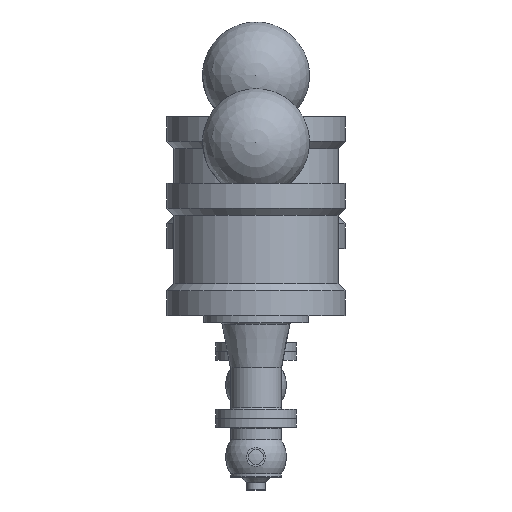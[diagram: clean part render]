
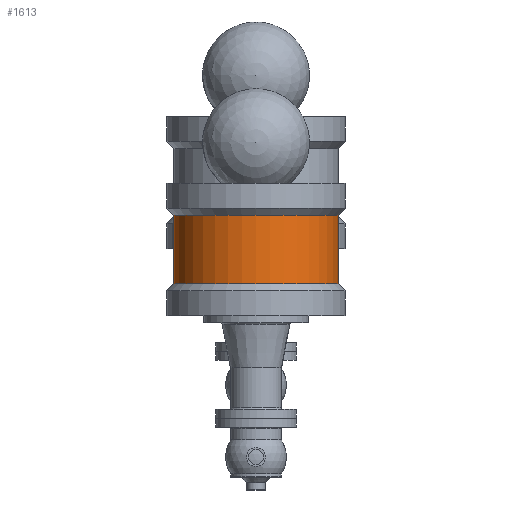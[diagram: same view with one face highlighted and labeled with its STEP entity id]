
A CAD part, front view. The second image highlights one B-rep face of the part: STEP entity #1613.
In plain terms, the highlighted cylindrical face has radius 110.5 mm (diameter 221 mm), a full revolution.
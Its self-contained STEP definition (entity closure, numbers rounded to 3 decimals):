
#292=FACE_OUTER_BOUND('',#404,.T.);
#404=EDGE_LOOP('',(#1342,#1343,#1344,#1345,#1346,#1347));
#483=LINE('',#3046,#526);
#526=VECTOR('',#2462,110.5);
#644=CIRCLE('',#1962,110.5);
#645=CIRCLE('',#1963,110.5);
#646=CIRCLE('',#1965,110.5);
#647=CIRCLE('',#1966,110.5);
#808=VERTEX_POINT('',#3036);
#809=VERTEX_POINT('',#3037);
#810=VERTEX_POINT('',#3042);
#811=VERTEX_POINT('',#3043);
#999=EDGE_CURVE('',#808,#809,#644,.T.);
#1000=EDGE_CURVE('',#809,#808,#645,.T.);
#1002=EDGE_CURVE('',#810,#811,#646,.T.);
#1003=EDGE_CURVE('',#811,#810,#647,.T.);
#1004=EDGE_CURVE('',#811,#809,#483,.T.);
#1342=ORIENTED_EDGE('',*,*,#1002,.F.);
#1343=ORIENTED_EDGE('',*,*,#1003,.F.);
#1344=ORIENTED_EDGE('',*,*,#1004,.T.);
#1345=ORIENTED_EDGE('',*,*,#1000,.T.);
#1346=ORIENTED_EDGE('',*,*,#999,.T.);
#1347=ORIENTED_EDGE('',*,*,#1004,.F.);
#1541=CYLINDRICAL_SURFACE('',#1964,110.5);
#1613=ADVANCED_FACE('',(#292),#1541,.T.);
#1962=AXIS2_PLACEMENT_3D('',#3038,#2451,#2452);
#1963=AXIS2_PLACEMENT_3D('',#3039,#2453,#2454);
#1964=AXIS2_PLACEMENT_3D('',#3041,#2456,#2457);
#1965=AXIS2_PLACEMENT_3D('',#3044,#2458,#2459);
#1966=AXIS2_PLACEMENT_3D('',#3045,#2460,#2461);
#2451=DIRECTION('center_axis',(-1.,0.,0.));
#2452=DIRECTION('ref_axis',(0.,0.,1.));
#2453=DIRECTION('center_axis',(-1.,0.,0.));
#2454=DIRECTION('ref_axis',(0.,0.,1.));
#2456=DIRECTION('center_axis',(-1.,0.,0.));
#2457=DIRECTION('ref_axis',(0.,0.,1.));
#2458=DIRECTION('center_axis',(-1.,0.,0.));
#2459=DIRECTION('ref_axis',(0.,0.,1.));
#2460=DIRECTION('center_axis',(-1.,0.,0.));
#2461=DIRECTION('ref_axis',(0.,0.,1.));
#2462=DIRECTION('',(1.,0.,0.));
#3036=CARTESIAN_POINT('',(-46.,0.,110.5));
#3037=CARTESIAN_POINT('',(-46.,0.,-110.5));
#3038=CARTESIAN_POINT('Origin',(-46.,0.,0.));
#3039=CARTESIAN_POINT('Origin',(-46.,0.,0.));
#3041=CARTESIAN_POINT('Origin',(-92.,0.,0.));
#3042=CARTESIAN_POINT('',(-138.,0.,110.5));
#3043=CARTESIAN_POINT('',(-138.,0.,-110.5));
#3044=CARTESIAN_POINT('Origin',(-138.,0.,0.));
#3045=CARTESIAN_POINT('Origin',(-138.,0.,0.));
#3046=CARTESIAN_POINT('',(-92.,0.,-110.5));
